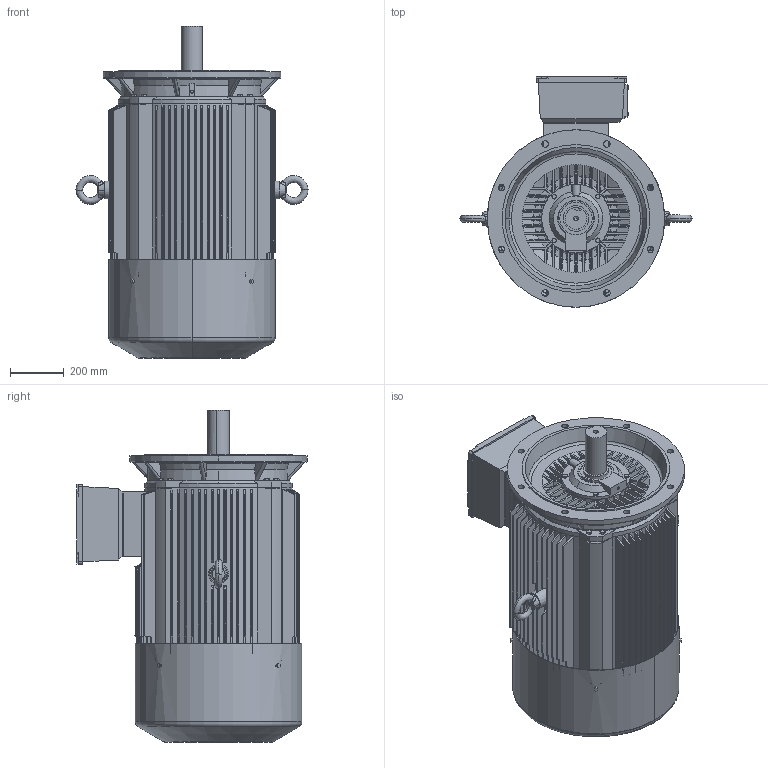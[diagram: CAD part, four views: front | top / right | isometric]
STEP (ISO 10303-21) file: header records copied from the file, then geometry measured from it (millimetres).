
FILE_DESCRIPTION (( 'STEP AP203' ), '1' );
FILE_NAME ('TE3-315S-4,6,8 V1上.STEP', '2019-12-31T00:14:10', ( '微软用户' ), ( '微软中国' ), 'SwSTEP 2.0', 'SolidWorks 2012', '' );
FILE_SCHEMA (( 'CONFIG_CONTROL_DESIGN' ));
Products named in the file (14): TE3-315S-4,6,8 V1奻; YE3-315-4,6,8粣扥; Y2-315-4,6,8,10轴承外盖（轴伸）; hex head bolts-full thread grade c gb_GB_FASTENER_BOLT_HHBFTC M12X30-N; Y2-135 P24諉盄碟; hex head bolts-full thread grade c gb_GB_FASTENER_BOLT_HHBFTC M6X20-N; hex head bolts-full thread grade c gb_GB_FASTENER_BOLT_HHBFTC M10X20-N; 諉盄碟裔 WY315; 諉盄碟釱Y2-315; 蚐戚; eyebolts gb_GB_FASTENER_SCREWS_FRS M30-N; 8SLJ.306.00027（风罩YE3-315-4.6.8）; Y2-315-4,6,8凸缘端盖（带放油孔）; Y2-315S 儂釱 V1
Assembly tree (31 placements, depth 3):
  TE3-315S-4,6,8 V1奻
    Y2-315S 儂釱 V1
    Y2-315-4,6,8凸缘端盖（带放油孔）
    8SLJ.306.00027（风罩YE3-315-4.6.8）
    eyebolts gb_GB_FASTENER_SCREWS_FRS M30-N  x2
    蚐戚
    Y2-135 P24諉盄碟
      諉盄碟釱Y2-315
      諉盄碟裔 WY315
      hex head bolts-full thread grade c gb_GB_FASTENER_BOLT_HHBFTC M10X20-N  x4
      hex head bolts-full thread grade c gb_GB_FASTENER_BOLT_HHBFTC M6X20-N  x4
    hex head bolts-full thread grade c gb_GB_FASTENER_BOLT_HHBFTC M12X30-N  x8
    hex head bolts-full thread grade c gb_GB_FASTENER_BOLT_HHBFTC M10X20-N  x4
    Y2-315-4,6,8,10轴承外盖（轴伸）
    YE3-315-4,6,8粣扥
Bounding box: 863.4 x 857.4 x 1235 mm (x, y, z)
Volume: 200141867.5 mm3; surface area: 8203831.5 mm2
Topology: 31 solids, 31 shells, 9284 faces, 24610 edges, 16351 vertices
Faces by surface type: plane 4859, cylinder 3730, cone 357, bspline 219, torus 117, sphere 2
Entity records: 333023 total; most frequent: CARTESIAN_POINT 104485, ORIENTED_EDGE 47482, DIRECTION 47329, EDGE_CURVE 23741, AXIS2_PLACEMENT_3D 16349, VERTEX_POINT 15823, LINE 14631, VECTOR 14631
